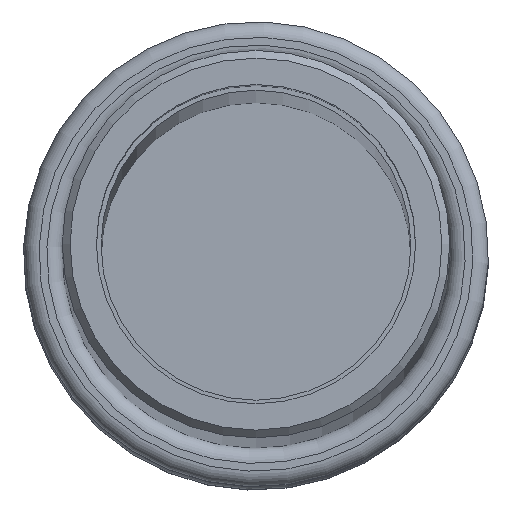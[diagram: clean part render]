
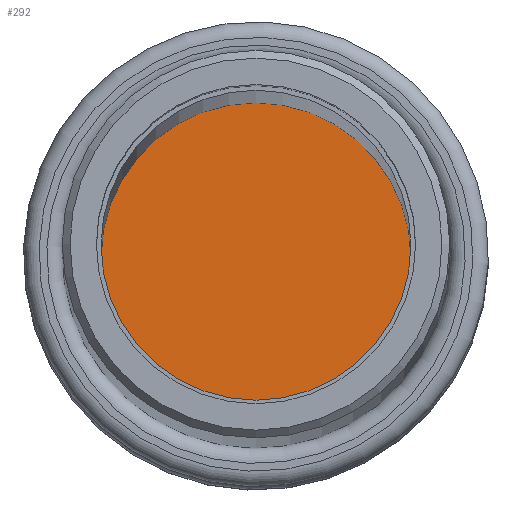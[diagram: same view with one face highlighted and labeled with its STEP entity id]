
A CAD part, top view. The second image highlights one B-rep face of the part: STEP entity #292.
In plain terms, the highlighted planar face has unit normal (0, 0, 1).
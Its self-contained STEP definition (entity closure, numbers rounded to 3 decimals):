
#28=PLANE('',#350);
#47=FACE_OUTER_BOUND('',#71,.T.);
#71=EDGE_LOOP('',(#222));
#112=CIRCLE('',#347,12.5);
#137=VERTEX_POINT('',#514);
#166=EDGE_CURVE('',#137,#137,#112,.T.);
#222=ORIENTED_EDGE('',*,*,#166,.T.);
#292=ADVANCED_FACE('',(#47),#28,.T.);
#347=AXIS2_PLACEMENT_3D('',#516,#423,#424);
#350=AXIS2_PLACEMENT_3D('',#520,#429,#430);
#423=DIRECTION('center_axis',(0.,0.,
1.));
#424=DIRECTION('ref_axis',(-0.99,-0.138,0.));
#429=DIRECTION('center_axis',(0.,0.,
1.));
#430=DIRECTION('ref_axis',(-0.99,-0.138,0.));
#514=CARTESIAN_POINT('',(12.381,1.722,0.));
#516=CARTESIAN_POINT('Origin',(0.,0.,
0.));
#520=CARTESIAN_POINT('Origin',(0.,0.,
0.));
